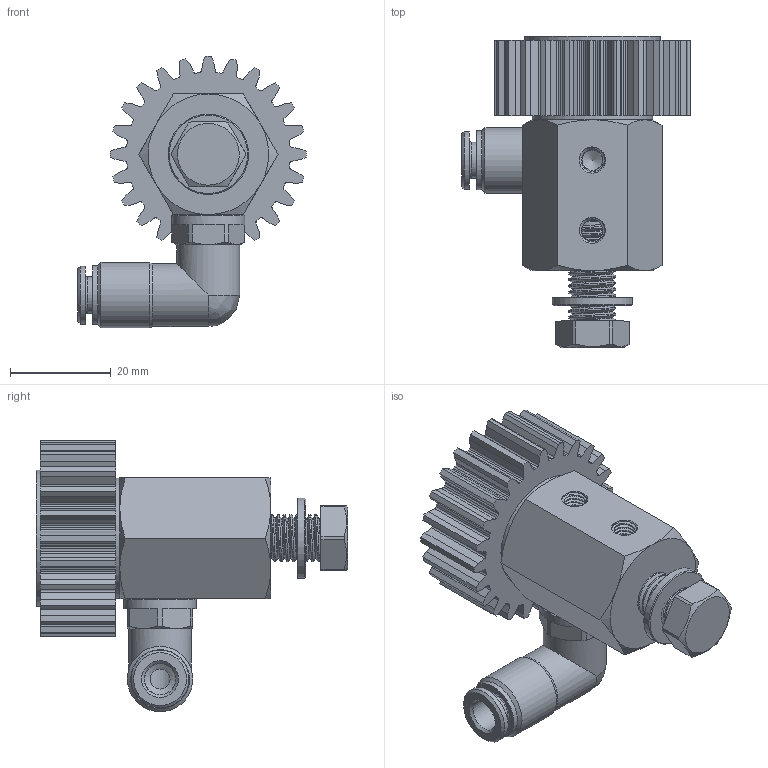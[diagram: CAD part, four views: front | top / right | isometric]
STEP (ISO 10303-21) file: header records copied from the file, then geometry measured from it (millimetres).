
FILE_DESCRIPTION (( 'STEP AP214' ), '1' );
FILE_NAME ('012_13_015_15_24BZ.STEP', '2026-04-08T12:39:16', ( '' ), ( '' ), 'SwSTEP 2.0', 'SolidWorks 2022', '' );
FILE_SCHEMA (( 'AUTOMOTIVE_DESIGN' ));
Length unit declared in the file: millimetre
Products named in the file (13): RIVOLUZIONE_0_2; 12012_06_01_Scheibe-CRS-VA_27.SLDASM; U_Scheibe_8,4; 012_06_Senkschraube; 012_13b_01_winklige_Achse_lang_M8_1; Schmierzahnrad_015_24_G; Schraube_M8_20; 012_13_015_15_24BZ; RH202242; H202242_HDS022_6_M10X1_08.05.17(1); OR 7.2X1.9_1; DR6-C_HDX_25.07.16_1; 12012_06_00_Scheibe-CRS-VA.SLDASM
Assembly tree (12 placements, depth 3):
  012_13_015_15_24BZ
    012_13b_01_winklige_Achse_lang_M8_1
    Schraube_M8_20
    U_Scheibe_8,4
    H202242_HDS022_6_M10X1_08.05.17(1)
      OR 7.2X1.9_1
      RH202242
      DR6-C_HDX_25.07.16_1
      RIVOLUZIONE_0_2
    12012_06_00_Scheibe-CRS-VA.SLDASM
    12012_06_01_Scheibe-CRS-VA_27.SLDASM
    012_06_Senkschraube
    Schmierzahnrad_015_24_G
Bounding box: 45.5 x 61.9 x 54 mm (x, y, z)
Volume: 35047.3 mm3; surface area: 19016.2 mm2
Topology: 11 solids, 11 shells, 764 faces, 2107 edges, 1398 vertices
Faces by surface type: plane 461, cylinder 130, bspline 116, cone 54, torus 3
Full cylindrical faces by diameter (mm): 3 x1, 4 x2, 5.5 x1, 6 x1, 6.2 x1, 6.3 x1, 6.5 x1, 7.2 x1, 8.4 x1, 8.5 x1, 9 x10, 9.9 x1, 10 x3, 10.1 x2, 10.3 x1, 11.5 x1, 11.7 x1, 12.5 x2, 13 x1, 14.5 x1, 16 x1, 24 x1, 27 x1
Entity records: 46190 total; most frequent: CARTESIAN_POINT 27054, ORIENTED_EDGE 3916, DIRECTION 3194, EDGE_CURVE 1958, VERTEX_POINT 1332, LINE 1296, VECTOR 1296, AXIS2_PLACEMENT_3D 949
